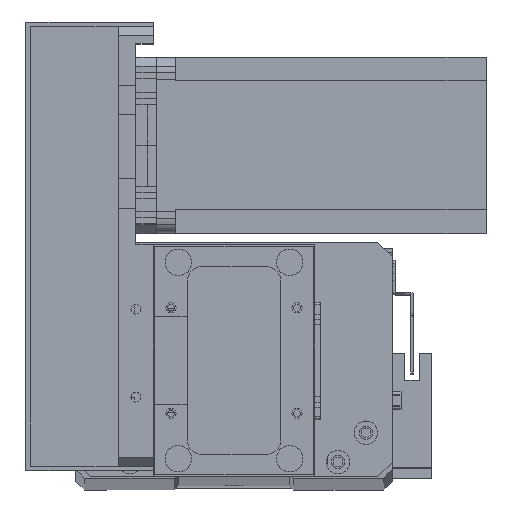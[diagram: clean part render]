
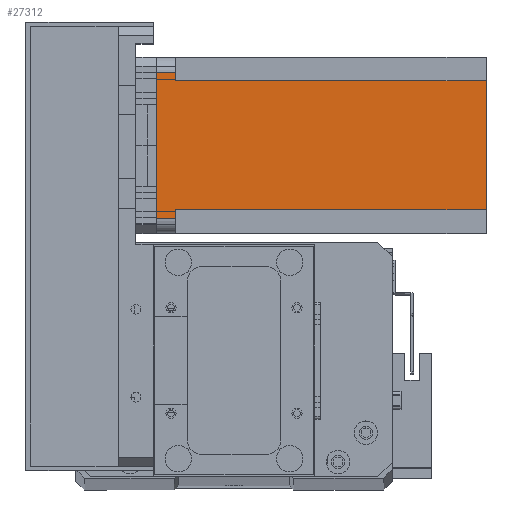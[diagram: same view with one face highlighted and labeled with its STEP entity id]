
A CAD part, top view. The second image highlights one B-rep face of the part: STEP entity #27312.
In plain terms, the highlighted planar face has unit normal (0, 0, 1) as drawn and (0, -1, 0) by its records, which use the part's own axes.
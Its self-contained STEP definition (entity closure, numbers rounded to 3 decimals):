
#656 = CARTESIAN_POINT ( 'NONE',  ( 5., 0., -112.5 ) ) ;
#749 = ORIENTED_EDGE ( 'NONE', *, *, #11976, .T. ) ;
#1495 = DIRECTION ( 'NONE',  ( 0., 0., -1. ) ) ;
#1659 = CARTESIAN_POINT ( 'NONE',  ( 0., 0., 0. ) ) ;
#1797 = VERTEX_POINT ( 'NONE', #14863 ) ;
#2074 = LINE ( 'NONE', #32414, #15140 ) ;
#2792 = VECTOR ( 'NONE', #19820, 1000. ) ;
#2819 = DIRECTION ( 'NONE',  ( 0., 0., 1. ) ) ;
#3946 = CARTESIAN_POINT ( 'NONE',  ( 52., 0., -6.5 ) ) ;
#4594 = CARTESIAN_POINT ( 'NONE',  ( 0., 0., -112.5 ) ) ;
#4652 = ORIENTED_EDGE ( 'NONE', *, *, #24390, .F. ) ;
#5938 = CARTESIAN_POINT ( 'NONE',  ( 8., 0., -112.5 ) ) ;
#6016 = DIRECTION ( 'NONE',  ( 0., 0., -1. ) ) ;
#7193 = EDGE_CURVE ( 'NONE', #17114, #20326, #16689, .T. ) ;
#8394 = CARTESIAN_POINT ( 'NONE',  ( 52., 0., -112.5 ) ) ;
#9310 = DIRECTION ( 'NONE',  ( 1., 0., 0. ) ) ;
#9861 = LINE ( 'NONE', #1659, #2792 ) ;
#10214 = EDGE_CURVE ( 'NONE', #12057, #21433, #25789, .T. ) ;
#11851 = ORIENTED_EDGE ( 'NONE', *, *, #21977, .F. ) ;
#11976 = EDGE_CURVE ( 'NONE', #20326, #13919, #22879, .T. ) ;
#12057 = VERTEX_POINT ( 'NONE', #5938 ) ;
#12469 = DIRECTION ( 'NONE',  ( 0., -1., 0. ) ) ;
#12769 = LINE ( 'NONE', #25875, #32379 ) ;
#13452 = CARTESIAN_POINT ( 'NONE',  ( 8., 0., -6.5 ) ) ;
#13764 = ORIENTED_EDGE ( 'NONE', *, *, #18889, .T. ) ;
#13919 = VERTEX_POINT ( 'NONE', #29168 ) ;
#14422 = CARTESIAN_POINT ( 'NONE',  ( 55., 0., -6.5 ) ) ;
#14434 = VECTOR ( 'NONE', #21030, 1000. ) ;
#14863 = CARTESIAN_POINT ( 'NONE',  ( 5., 0., -6.5 ) ) ;
#15140 = VECTOR ( 'NONE', #1495, 1000. ) ;
#16119 = VECTOR ( 'NONE', #2819, 1000. ) ;
#16284 = VERTEX_POINT ( 'NONE', #13452 ) ;
#16689 = LINE ( 'NONE', #24683, #22752 ) ;
#17114 = VERTEX_POINT ( 'NONE', #3946 ) ;
#17894 = ORIENTED_EDGE ( 'NONE', *, *, #10214, .T. ) ;
#17962 = FACE_OUTER_BOUND ( 'NONE', #23740, .T. ) ;
#18426 = CARTESIAN_POINT ( 'NONE',  ( 55., 0., -112.5 ) ) ;
#18889 = EDGE_CURVE ( 'NONE', #25517, #1797, #33302, .T. ) ;
#18936 = VECTOR ( 'NONE', #27510, 1000. ) ;
#19513 = ORIENTED_EDGE ( 'NONE', *, *, #22364, .F. ) ;
#19820 = DIRECTION ( 'NONE',  ( 1., 0., 0. ) ) ;
#20073 = PLANE ( 'NONE',  #29811 ) ;
#20326 = VERTEX_POINT ( 'NONE', #14422 ) ;
#20803 = DIRECTION ( 'NONE',  ( -1., 0., 0. ) ) ;
#20982 = CARTESIAN_POINT ( 'NONE',  ( 8., 0., -112.5 ) ) ;
#21030 = DIRECTION ( 'NONE',  ( 0., 0., 1. ) ) ;
#21433 = VERTEX_POINT ( 'NONE', #8394 ) ;
#21767 = ORIENTED_EDGE ( 'NONE', *, *, #7193, .T. ) ;
#21977 = EDGE_CURVE ( 'NONE', #16284, #1797, #12769, .T. ) ;
#22364 = EDGE_CURVE ( 'NONE', #17114, #21433, #2074, .T. ) ;
#22752 = VECTOR ( 'NONE', #9310, 1000. ) ;
#22879 = LINE ( 'NONE', #18426, #14434 ) ;
#22975 = LINE ( 'NONE', #20982, #16119 ) ;
#23740 = EDGE_LOOP ( 'NONE', ( #21767, #749, #4652, #13764, #11851, #24849, #17894, #19513 ) ) ;
#24390 = EDGE_CURVE ( 'NONE', #25517, #13919, #9861, .T. ) ;
#24683 = CARTESIAN_POINT ( 'NONE',  ( 52., 0., -6.5 ) ) ;
#24849 = ORIENTED_EDGE ( 'NONE', *, *, #31840, .F. ) ;
#24900 = CARTESIAN_POINT ( 'NONE',  ( 0., 0., -112.5 ) ) ;
#25517 = VERTEX_POINT ( 'NONE', #32262 ) ;
#25789 = LINE ( 'NONE', #24900, #18936 ) ;
#25875 = CARTESIAN_POINT ( 'NONE',  ( 8., 0., -6.5 ) ) ;
#27312 = ADVANCED_FACE ( 'NONE', ( #17962 ), #20073, .T. ) ;
#27510 = DIRECTION ( 'NONE',  ( 1., 0., 0. ) ) ;
#29168 = CARTESIAN_POINT ( 'NONE',  ( 55., 0., 0. ) ) ;
#29811 = AXIS2_PLACEMENT_3D ( 'NONE', #4594, #12469, #30382 ) ;
#30382 = DIRECTION ( 'NONE',  ( 0., 0., -1. ) ) ;
#30601 = VECTOR ( 'NONE', #6016, 1000. ) ;
#31840 = EDGE_CURVE ( 'NONE', #12057, #16284, #22975, .T. ) ;
#32262 = CARTESIAN_POINT ( 'NONE',  ( 5., 0., 0. ) ) ;
#32379 = VECTOR ( 'NONE', #20803, 1000. ) ;
#32414 = CARTESIAN_POINT ( 'NONE',  ( 52., 0., -112.5 ) ) ;
#33302 = LINE ( 'NONE', #656, #30601 ) ;
